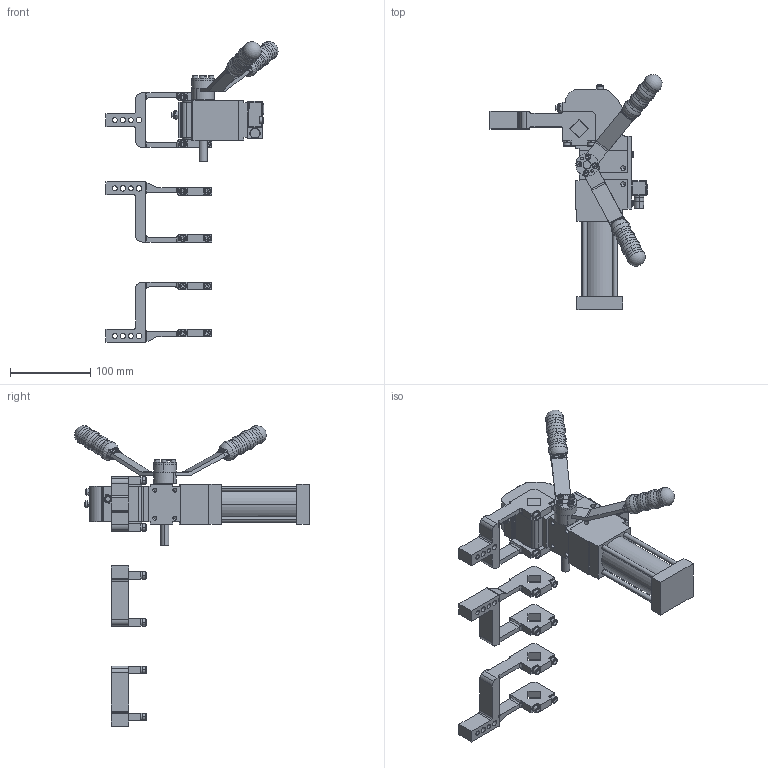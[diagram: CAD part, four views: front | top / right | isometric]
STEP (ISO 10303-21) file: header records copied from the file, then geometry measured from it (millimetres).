
FILE_DESCRIPTION((''),'2;1');
FILE_NAME('S:\Matthew\Step Files (Power Clamps) v.3.14\XSM Power Clamps\XSM 140 HO.stp','2006-07-27T15:13:47',('Matthew'),(''),'Autodesk Inventor 8','Autodesk Inventor 8','');
FILE_SCHEMA(('AUTOMOTIVE_DESIGN { 1 0 10303 214 1 1 1 1 }'));
Length unit declared in the file: millimetre
Products named in the file (7): XSM 140 HO; XSM 140 HO1; XSM 140 HO2; XSM 140 HO3; XSM 140 HO4; XSM 140 HO5; XSM 140 HO6
Assembly tree (6 placements, depth 2):
  XSM 140 HO
    XSM 140 HO1
    XSM 140 HO2
    XSM 140 HO3
    XSM 140 HO4
    XSM 140 HO5
    XSM 140 HO6
Bounding box: 214.42 x 292.77 x 374.81 mm (x, y, z)
Volume: 1025128 mm3; surface area: 187309.4 mm2
Topology: 6 solids, 15 shells, 1226 faces, 3318 edges, 2109 vertices
Faces by surface type: plane 429, bspline 351, cylinder 346, cone 56, sphere 32, torus 12
Entity records: 45953 total; most frequent: CARTESIAN_POINT 16239, ORIENTED_EDGE 6376, DIRECTION 5985, EDGE_CURVE 3188, AXIS2_PLACEMENT_3D 2211, VERTEX_POINT 2093, VECTOR 1563, LINE 1563
